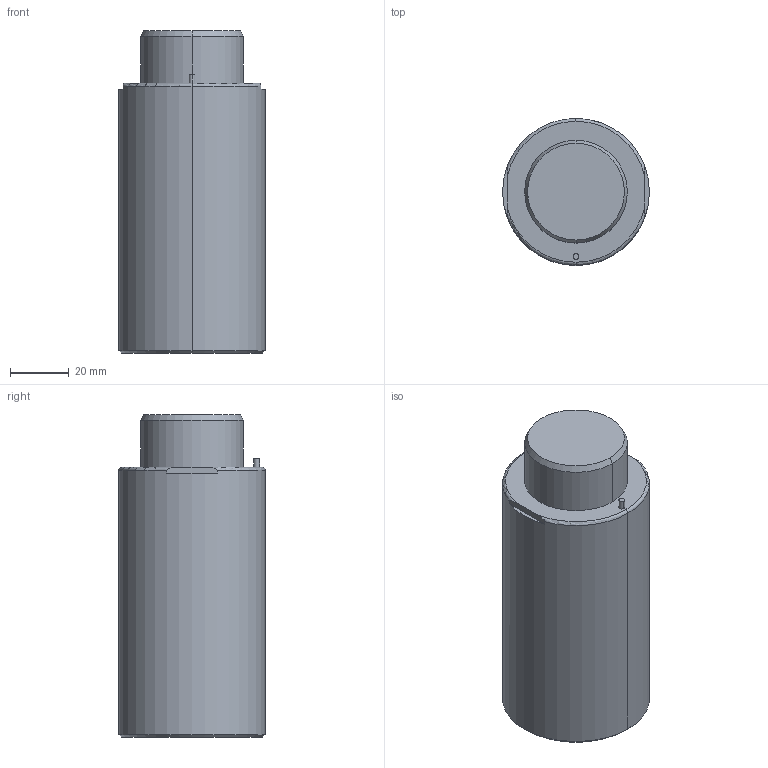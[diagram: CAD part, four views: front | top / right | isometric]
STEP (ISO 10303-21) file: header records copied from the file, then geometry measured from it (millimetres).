
FILE_DESCRIPTION(/* description */ (''),/* implementation_level */ '2;1');
FILE_NAME(/* name */ '3d_gsx50-15_03958_r00.stp',/* time_stamp */ '2011-01-10T14:15:12+09:00',/* author */ ('MISUMI'),/* organization */ (''),/* preprocessor_version */ 'ST-DEVELOPER v11',/* originating_system */ 'UGS - NX 5.0',/* authorisation */ '');
FILE_SCHEMA (('CONFIG_CONTROL_DESIGN'));
Length unit declared in the file: millimetre
Products named in the file (1): 3d_gsx50-15_03958_r00
Bounding box: 50 x 50 x 110 mm (x, y, z)
Volume: 194399.5 mm3; surface area: 21825.7 mm2
Topology: 1 solids, 1 shells, 59 faces, 130 edges, 78 vertices
Faces by surface type: cylinder 28, plane 15, cone 12, torus 4
Entity records: 1724 total; most frequent: CARTESIAN_POINT 320, DIRECTION 308, ORIENTED_EDGE 244, AXIS2_PLACEMENT_3D 130, EDGE_CURVE 122, VERTEX_POINT 78, EDGE_LOOP 72, CIRCLE 70
